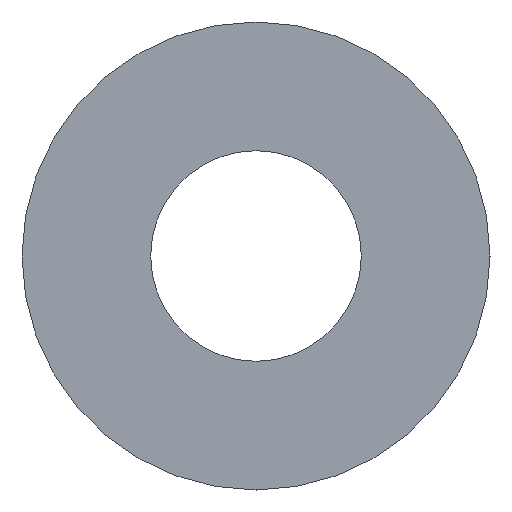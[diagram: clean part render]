
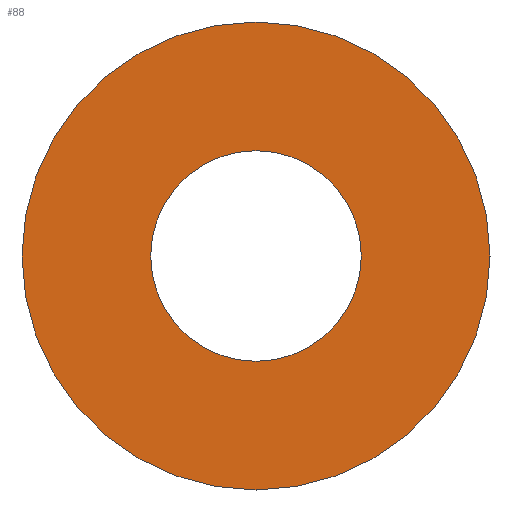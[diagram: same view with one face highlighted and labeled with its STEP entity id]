
A CAD part, front view. The second image highlights one B-rep face of the part: STEP entity #88.
In plain terms, the highlighted planar face has unit normal (0, -1, 0).
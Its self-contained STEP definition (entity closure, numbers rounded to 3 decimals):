
#9 = EDGE_CURVE ( 'NONE', #86, #76, #119, .T. ) ;
#14 = CARTESIAN_POINT ( 'NONE',  ( -10., 0., 0. ) ) ;
#17 = PLANE ( 'NONE',  #208 ) ;
#18 = FACE_OUTER_BOUND ( 'NONE', #96, .T. ) ;
#20 = CARTESIAN_POINT ( 'NONE',  ( 0., 0., -10. ) ) ;
#25 = FACE_BOUND ( 'NONE', #85, .T. ) ;
#61 = DIRECTION ( 'NONE',  ( 0., 0., -1. ) ) ;
#62 = DIRECTION ( 'NONE',  ( 0., -1., 0. ) ) ;
#63 = ORIENTED_EDGE ( 'NONE', *, *, #9, .T. ) ;
#68 = ORIENTED_EDGE ( 'NONE', *, *, #133, .F. ) ;
#76 = VERTEX_POINT ( 'NONE', #170 ) ;
#85 = EDGE_LOOP ( 'NONE', ( #160, #68 ) ) ;
#86 = VERTEX_POINT ( 'NONE', #20 ) ;
#88 = ADVANCED_FACE ( 'NONE', ( #25, #18 ), #17, .F. ) ;
#96 = EDGE_LOOP ( 'NONE', ( #63, #161 ) ) ;
#114 = CARTESIAN_POINT ( 'NONE',  ( 0., 0., 0. ) ) ;
#115 = AXIS2_PLACEMENT_3D ( 'NONE', #114, #62, #61 ) ;
#119 = CIRCLE ( 'NONE', #115, 10. ) ;
#125 = VERTEX_POINT ( 'NONE', #284 ) ;
#126 = VERTEX_POINT ( 'NONE', #325 ) ;
#133 = EDGE_CURVE ( 'NONE', #125, #126, #264, .T. ) ;
#160 = ORIENTED_EDGE ( 'NONE', *, *, #167, .F. ) ;
#161 = ORIENTED_EDGE ( 'NONE', *, *, #162, .T. ) ;
#162 = EDGE_CURVE ( 'NONE', #76, #86, #345, .T. ) ;
#167 = EDGE_CURVE ( 'NONE', #126, #125, #335, .T. ) ;
#170 = CARTESIAN_POINT ( 'NONE',  ( 0., 0., 10. ) ) ;
#196 = DIRECTION ( 'NONE',  ( 0., 0., 1. ) ) ;
#197 = DIRECTION ( 'NONE',  ( 0., 1., 0. ) ) ;
#208 = AXIS2_PLACEMENT_3D ( 'NONE', #14, #197, #196 ) ;
#260 = DIRECTION ( 'NONE',  ( 0., 0., -1. ) ) ;
#261 = DIRECTION ( 'NONE',  ( 0., -1., 0. ) ) ;
#262 = CARTESIAN_POINT ( 'NONE',  ( 0., 0., 0. ) ) ;
#263 = AXIS2_PLACEMENT_3D ( 'NONE', #262, #261, #260 ) ;
#264 = CIRCLE ( 'NONE', #263, 4.5 ) ;
#284 = CARTESIAN_POINT ( 'NONE',  ( 0., 0., 4.5 ) ) ;
#325 = CARTESIAN_POINT ( 'NONE',  ( 0., 0., -4.5 ) ) ;
#328 = DIRECTION ( 'NONE',  ( 0., 0., -1. ) ) ;
#329 = DIRECTION ( 'NONE',  ( 0., -1., 0. ) ) ;
#330 = CARTESIAN_POINT ( 'NONE',  ( 0., 0., 0. ) ) ;
#332 = DIRECTION ( 'NONE',  ( 0., 0., -1. ) ) ;
#333 = DIRECTION ( 'NONE',  ( 0., -1., 0. ) ) ;
#334 = AXIS2_PLACEMENT_3D ( 'NONE', #344, #333, #332 ) ;
#335 = CIRCLE ( 'NONE', #340, 4.5 ) ;
#340 = AXIS2_PLACEMENT_3D ( 'NONE', #330, #329, #328 ) ;
#344 = CARTESIAN_POINT ( 'NONE',  ( 0., 0., 0. ) ) ;
#345 = CIRCLE ( 'NONE', #334, 10. ) ;
